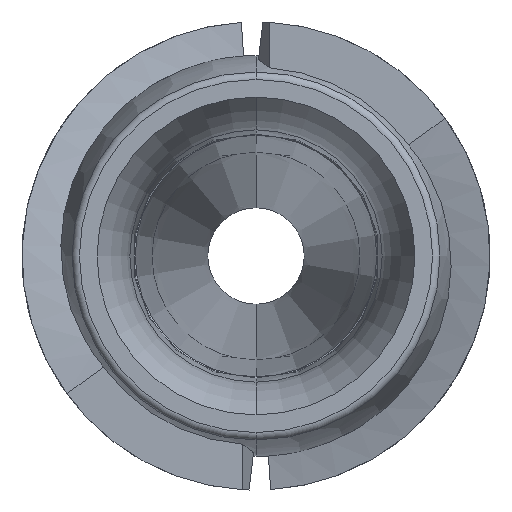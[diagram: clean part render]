
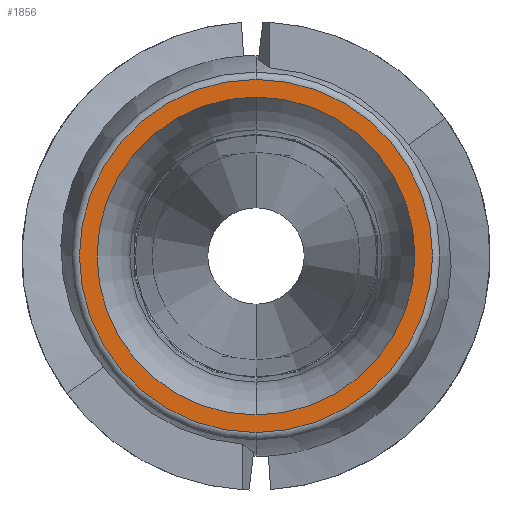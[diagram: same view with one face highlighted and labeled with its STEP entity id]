
A CAD part, front view. The second image highlights one B-rep face of the part: STEP entity #1856.
In plain terms, the highlighted planar face has unit normal (0, -1, 0).
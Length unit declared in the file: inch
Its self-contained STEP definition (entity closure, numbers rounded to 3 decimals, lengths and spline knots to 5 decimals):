
#6 = ORIENTED_EDGE ( 'NONE', *, *, #71, .F. ) ;
#44 = CIRCLE ( 'NONE', #45, 0.11541 ) ;
#45 = AXIS2_PLACEMENT_3D ( 'NONE', #1303, #1787, #957 ) ;
#71 = EDGE_CURVE ( 'NONE', #917, #1796, #1574, .T. ) ;
#116 = DIRECTION ( 'NONE',  ( 0., 0., -1. ) ) ;
#173 = CIRCLE ( 'NONE', #1433, 0.11541 ) ;
#222 = DIRECTION ( 'NONE',  ( 0., 0., 1. ) ) ;
#323 = DIRECTION ( 'NONE',  ( 0., -1., 0. ) ) ;
#332 = ORIENTED_EDGE ( 'NONE', *, *, #1376, .T. ) ;
#378 = FACE_OUTER_BOUND ( 'NONE', #1470, .T. ) ;
#382 = CARTESIAN_POINT ( 'NONE',  ( 0., 0., 0.11541 ) ) ;
#406 = CARTESIAN_POINT ( 'NONE',  ( 0.11912, 0., 0. ) ) ;
#471 = VERTEX_POINT ( 'NONE', #382 ) ;
#483 = CIRCLE ( 'NONE', #1259, 0.10388 ) ;
#515 = CARTESIAN_POINT ( 'NONE',  ( 0., 0., -0.11541 ) ) ;
#603 = CARTESIAN_POINT ( 'NONE',  ( 0., 0., 0. ) ) ;
#646 = CARTESIAN_POINT ( 'NONE',  ( 0., 0., 0. ) ) ;
#814 = DIRECTION ( 'NONE',  ( 0., 0., -1. ) ) ;
#917 = VERTEX_POINT ( 'NONE', #1964 ) ;
#928 = FACE_BOUND ( 'NONE', #1151, .T. ) ;
#946 = ORIENTED_EDGE ( 'NONE', *, *, #1335, .T. ) ;
#957 = DIRECTION ( 'NONE',  ( 0., 0., 1. ) ) ;
#1109 = DIRECTION ( 'NONE',  ( 0., -1., 0. ) ) ;
#1114 = DIRECTION ( 'NONE',  ( 0., 0., 1. ) ) ;
#1148 = AXIS2_PLACEMENT_3D ( 'NONE', #603, #1109, #116 ) ;
#1151 = EDGE_LOOP ( 'NONE', ( #1794, #6 ) ) ;
#1161 = CARTESIAN_POINT ( 'NONE',  ( 0., 0., 0. ) ) ;
#1218 = AXIS2_PLACEMENT_3D ( 'NONE', #406, #1844, #222 ) ;
#1259 = AXIS2_PLACEMENT_3D ( 'NONE', #1161, #323, #814 ) ;
#1303 = CARTESIAN_POINT ( 'NONE',  ( 0., 0., 0. ) ) ;
#1335 = EDGE_CURVE ( 'NONE', #1806, #471, #44, .T. ) ;
#1376 = EDGE_CURVE ( 'NONE', #471, #1806, #173, .T. ) ;
#1433 = AXIS2_PLACEMENT_3D ( 'NONE', #646, #1610, #1114 ) ;
#1470 = EDGE_LOOP ( 'NONE', ( #332, #946 ) ) ;
#1574 = CIRCLE ( 'NONE', #1148, 0.10388 ) ;
#1610 = DIRECTION ( 'NONE',  ( 0., -1., 0. ) ) ;
#1642 = EDGE_CURVE ( 'NONE', #1796, #917, #483, .T. ) ;
#1787 = DIRECTION ( 'NONE',  ( 0., -1., 0. ) ) ;
#1794 = ORIENTED_EDGE ( 'NONE', *, *, #1642, .F. ) ;
#1796 = VERTEX_POINT ( 'NONE', #1816 ) ;
#1806 = VERTEX_POINT ( 'NONE', #515 ) ;
#1816 = CARTESIAN_POINT ( 'NONE',  ( 0., 0., -0.10388 ) ) ;
#1844 = DIRECTION ( 'NONE',  ( 0., 1., 0. ) ) ;
#1856 = ADVANCED_FACE ( 'NONE', ( #378, #928 ), #2049, .F. ) ;
#1964 = CARTESIAN_POINT ( 'NONE',  ( 0., 0., 0.10388 ) ) ;
#2049 = PLANE ( 'NONE',  #1218 ) ;
